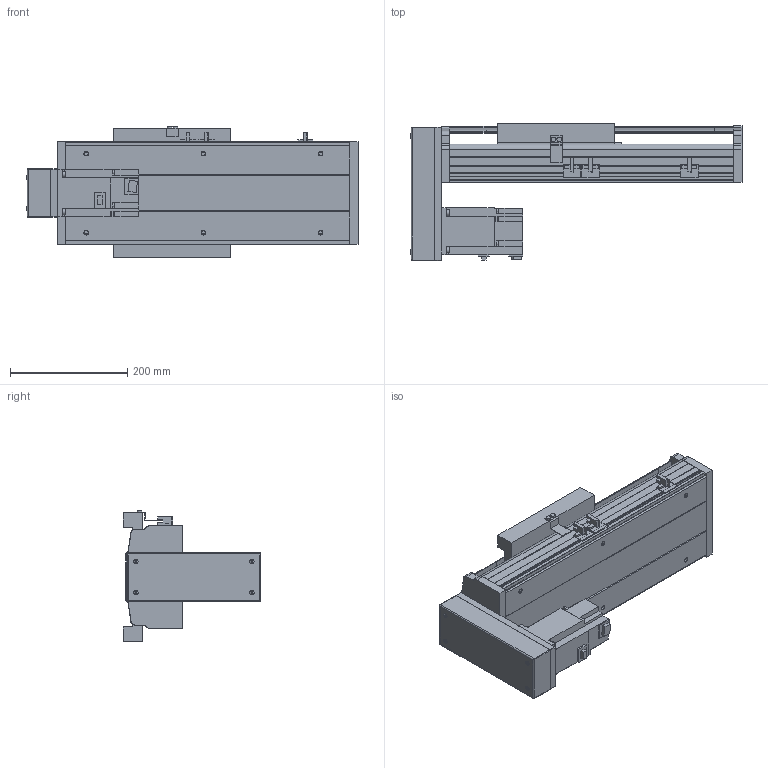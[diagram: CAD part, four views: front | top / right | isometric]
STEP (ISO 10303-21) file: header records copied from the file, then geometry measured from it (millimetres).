
FILE_DESCRIPTION( ( 'STEP AP214' ), '1' );
FILE_NAME( 'x:/temp/worker_27/temp/exporttempdir_6708_418_cMwQG/format_0/PSS200-L10-S150-BM-T75-C1-N(0).stp', '2022-06-06T02:44:12', ( 'License CC BY-ND 4.0' ), ( 'CADENAS' ), ' ', 'PARTsolutions', ' ' );
FILE_SCHEMA( ( 'AUTOMOTIVE_DESIGN { 1 0 10303 214 1 1 1 1 }' ) );
Length unit declared in the file: millimetre
Products named in the file (8): PSS200-L10-S150-BM-T75-C1-N(0); _PSS200-S150-BM-C1-N_body; _PSS200-N_Q; _PSS200-BM-C1-N_sl; _PSS200-N_sensor; _PSS200BM-N_h; _T75-p1; _PSS200-S150-BM-N_S
Assembly tree (9 placements, depth 2):
  PSS200-L10-S150-BM-T75-C1-N(0)
    _PSS200-S150-BM-C1-N_body
    _PSS200-N_Q
    _PSS200-BM-C1-N_sl
    _PSS200-N_sensor  x3
    _PSS200BM-N_h
    _T75-p1
    _PSS200-S150-BM-N_S
Bounding box: 566.85 x 234.45 x 223.86 mm (x, y, z)
Volume: 5465333.4 mm3; surface area: 1056008.3 mm2
Topology: 9 solids, 9 shells, 586 faces, 1565 edges, 1038 vertices
Faces by surface type: plane 452, cylinder 116, cone 14, sphere 4
Full cylindrical faces by diameter (mm): 4 x2, 4.5 x4, 6 x7, 6.647 x10, 7.4 x4, 8 x8, 10 x6, 25 x1, 40 x1, 67 x1
Entity records: 20529 total; most frequent: CARTESIAN_POINT 2853, DIRECTION 2687, ORIENTED_EDGE 2686, EDGE_CURVE 1343, LINE 1071, VECTOR 1071, VERTEX_POINT 926, AXIS2_PLACEMENT_3D 808
